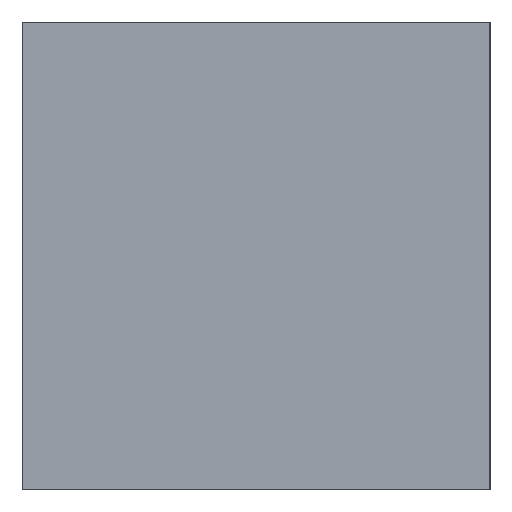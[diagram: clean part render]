
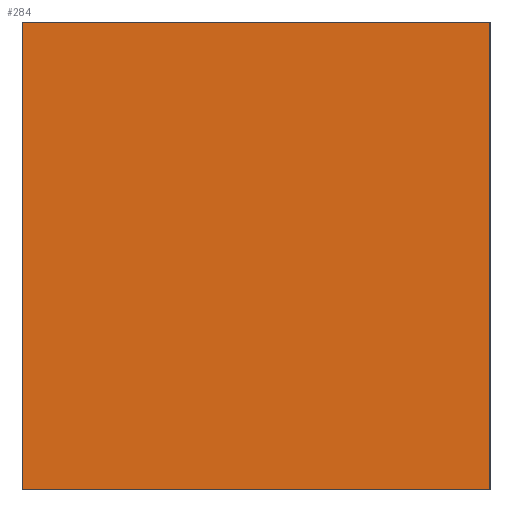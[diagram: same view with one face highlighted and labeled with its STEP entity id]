
A CAD part, left-side view. The second image highlights one B-rep face of the part: STEP entity #284.
In plain terms, the highlighted planar face has unit normal (-1, 0, 0).
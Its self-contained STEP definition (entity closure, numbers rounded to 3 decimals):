
#21 = EDGE_CURVE('',#22,#24,#26,.T.);
#22 = VERTEX_POINT('',#23);
#23 = CARTESIAN_POINT('',(-14.58,7.482,0.));
#24 = VERTEX_POINT('',#25);
#25 = CARTESIAN_POINT('',(-14.58,7.482,2.5));
#26 = SURFACE_CURVE('',#27,(#31,#43),.PCURVE_S1.);
#27 = LINE('',#28,#29);
#28 = CARTESIAN_POINT('',(-14.58,7.482,0.));
#29 = VECTOR('',#30,1.);
#30 = DIRECTION('',(0.,0.,1.));
#31 = PCURVE('',#32,#37);
#32 = PLANE('',#33);
#33 = AXIS2_PLACEMENT_3D('',#34,#35,#36);
#34 = CARTESIAN_POINT('',(-14.58,7.482,0.));
#35 = DIRECTION('',(0.,1.,0.));
#36 = DIRECTION('',(1.,0.,0.));
#37 = DEFINITIONAL_REPRESENTATION('',(#38),#42);
#38 = LINE('',#39,#40);
#39 = CARTESIAN_POINT('',(0.,0.));
#40 = VECTOR('',#41,1.);
#41 = DIRECTION('',(0.,-1.));
#42 = ( GEOMETRIC_REPRESENTATION_CONTEXT(2) 
PARAMETRIC_REPRESENTATION_CONTEXT() REPRESENTATION_CONTEXT('2D SPACE',''
  ) );
#43 = PCURVE('',#44,#49);
#44 = PLANE('',#45);
#45 = AXIS2_PLACEMENT_3D('',#46,#47,#48);
#46 = CARTESIAN_POINT('',(-14.58,4.982,0.));
#47 = DIRECTION('',(-1.,0.,0.));
#48 = DIRECTION('',(0.,1.,0.));
#49 = DEFINITIONAL_REPRESENTATION('',(#50),#54);
#50 = LINE('',#51,#52);
#51 = CARTESIAN_POINT('',(2.5,0.));
#52 = VECTOR('',#53,1.);
#53 = DIRECTION('',(0.,-1.));
#54 = ( GEOMETRIC_REPRESENTATION_CONTEXT(2) 
PARAMETRIC_REPRESENTATION_CONTEXT() REPRESENTATION_CONTEXT('2D SPACE',''
  ) );
#72 = PLANE('',#73);
#73 = AXIS2_PLACEMENT_3D('',#74,#75,#76);
#74 = CARTESIAN_POINT('',(35.42,6.232,2.5));
#75 = DIRECTION('',(0.,0.,1.));
#76 = DIRECTION('',(1.,0.,0.));
#126 = PLANE('',#127);
#127 = AXIS2_PLACEMENT_3D('',#128,#129,#130);
#128 = CARTESIAN_POINT('',(35.42,6.232,0.));
#129 = DIRECTION('',(0.,0.,1.));
#130 = DIRECTION('',(1.,0.,0.));
#181 = PLANE('',#182);
#182 = AXIS2_PLACEMENT_3D('',#183,#184,#185);
#183 = CARTESIAN_POINT('',(85.42,4.982,0.));
#184 = DIRECTION('',(0.,-1.,0.));
#185 = DIRECTION('',(-1.,0.,0.));
#219 = VERTEX_POINT('',#220);
#220 = CARTESIAN_POINT('',(-14.58,4.982,2.5));
#241 = EDGE_CURVE('',#242,#219,#244,.T.);
#242 = VERTEX_POINT('',#243);
#243 = CARTESIAN_POINT('',(-14.58,4.982,0.));
#244 = SURFACE_CURVE('',#245,(#249,#256),.PCURVE_S1.);
#245 = LINE('',#246,#247);
#246 = CARTESIAN_POINT('',(-14.58,4.982,0.));
#247 = VECTOR('',#248,1.);
#248 = DIRECTION('',(0.,0.,1.));
#249 = PCURVE('',#181,#250);
#250 = DEFINITIONAL_REPRESENTATION('',(#251),#255);
#251 = LINE('',#252,#253);
#252 = CARTESIAN_POINT('',(100.,0.));
#253 = VECTOR('',#254,1.);
#254 = DIRECTION('',(0.,-1.));
#255 = ( GEOMETRIC_REPRESENTATION_CONTEXT(2) 
PARAMETRIC_REPRESENTATION_CONTEXT() REPRESENTATION_CONTEXT('2D SPACE',''
  ) );
#256 = PCURVE('',#44,#257);
#257 = DEFINITIONAL_REPRESENTATION('',(#258),#262);
#258 = LINE('',#259,#260);
#259 = CARTESIAN_POINT('',(0.,0.));
#260 = VECTOR('',#261,1.);
#261 = DIRECTION('',(0.,-1.));
#262 = ( GEOMETRIC_REPRESENTATION_CONTEXT(2) 
PARAMETRIC_REPRESENTATION_CONTEXT() REPRESENTATION_CONTEXT('2D SPACE',''
  ) );
#284 = ADVANCED_FACE('',(#285),#44,.T.);
#285 = FACE_BOUND('',#286,.T.);
#286 = EDGE_LOOP('',(#287,#288,#309,#310));
#287 = ORIENTED_EDGE('',*,*,#241,.T.);
#288 = ORIENTED_EDGE('',*,*,#289,.T.);
#289 = EDGE_CURVE('',#219,#24,#290,.T.);
#290 = SURFACE_CURVE('',#291,(#295,#302),.PCURVE_S1.);
#291 = LINE('',#292,#293);
#292 = CARTESIAN_POINT('',(-14.58,4.982,2.5));
#293 = VECTOR('',#294,1.);
#294 = DIRECTION('',(0.,1.,0.));
#295 = PCURVE('',#44,#296);
#296 = DEFINITIONAL_REPRESENTATION('',(#297),#301);
#297 = LINE('',#298,#299);
#298 = CARTESIAN_POINT('',(0.,-2.5));
#299 = VECTOR('',#300,1.);
#300 = DIRECTION('',(1.,0.));
#301 = ( GEOMETRIC_REPRESENTATION_CONTEXT(2) 
PARAMETRIC_REPRESENTATION_CONTEXT() REPRESENTATION_CONTEXT('2D SPACE',''
  ) );
#302 = PCURVE('',#72,#303);
#303 = DEFINITIONAL_REPRESENTATION('',(#304),#308);
#304 = LINE('',#305,#306);
#305 = CARTESIAN_POINT('',(-50.,-1.25));
#306 = VECTOR('',#307,1.);
#307 = DIRECTION('',(0.,1.));
#308 = ( GEOMETRIC_REPRESENTATION_CONTEXT(2) 
PARAMETRIC_REPRESENTATION_CONTEXT() REPRESENTATION_CONTEXT('2D SPACE',''
  ) );
#309 = ORIENTED_EDGE('',*,*,#21,.F.);
#310 = ORIENTED_EDGE('',*,*,#311,.F.);
#311 = EDGE_CURVE('',#242,#22,#312,.T.);
#312 = SURFACE_CURVE('',#313,(#317,#324),.PCURVE_S1.);
#313 = LINE('',#314,#315);
#314 = CARTESIAN_POINT('',(-14.58,4.982,0.));
#315 = VECTOR('',#316,1.);
#316 = DIRECTION('',(0.,1.,0.));
#317 = PCURVE('',#44,#318);
#318 = DEFINITIONAL_REPRESENTATION('',(#319),#323);
#319 = LINE('',#320,#321);
#320 = CARTESIAN_POINT('',(0.,0.));
#321 = VECTOR('',#322,1.);
#322 = DIRECTION('',(1.,0.));
#323 = ( GEOMETRIC_REPRESENTATION_CONTEXT(2) 
PARAMETRIC_REPRESENTATION_CONTEXT() REPRESENTATION_CONTEXT('2D SPACE',''
  ) );
#324 = PCURVE('',#126,#325);
#325 = DEFINITIONAL_REPRESENTATION('',(#326),#330);
#326 = LINE('',#327,#328);
#327 = CARTESIAN_POINT('',(-50.,-1.25));
#328 = VECTOR('',#329,1.);
#329 = DIRECTION('',(0.,1.));
#330 = ( GEOMETRIC_REPRESENTATION_CONTEXT(2) 
PARAMETRIC_REPRESENTATION_CONTEXT() REPRESENTATION_CONTEXT('2D SPACE',''
  ) );
